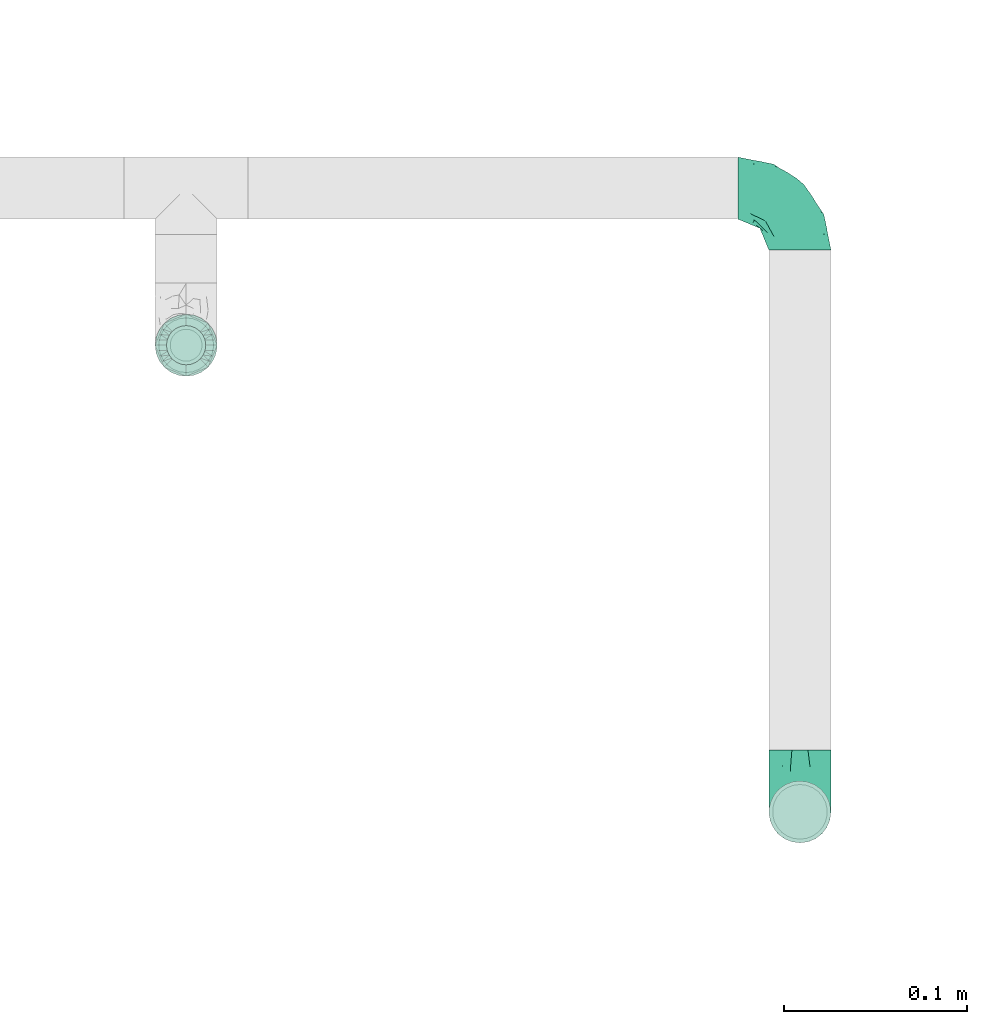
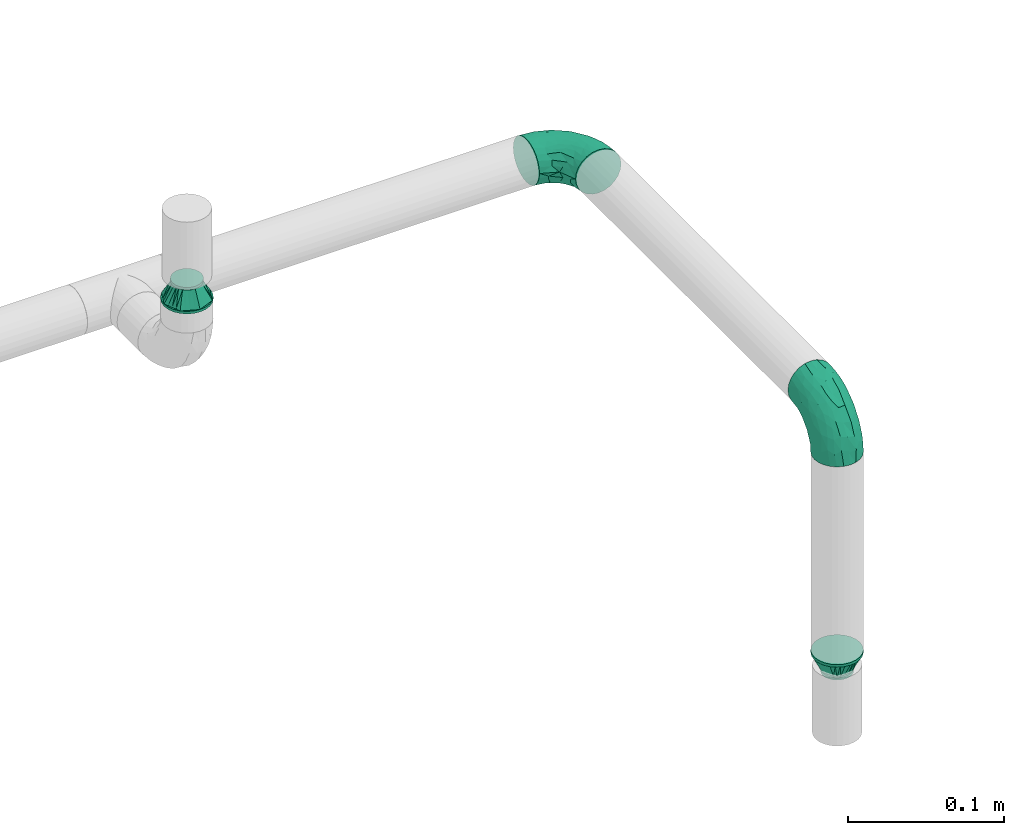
# One storey, part 65 of 95: 4 flow fittings.
"""IFC2X3 building model written with IfcOpenShell, lengths in millimetres."""

from ifc_helpers import new_model, entity, si_unit, converted_unit, derived_unit, direction, frame, origin_with_axes, place, context, subcontext, project, spatial, open_shell, surface_model, source, transform, mapped, type_object, element, save


model = new_model("IFC2X3")

# Units and contexts
model_context = context("Model", 3, precision=0.01, world=frame((0.0, 4.29681676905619e-09, 0.0)), true_north=direction((4.01073788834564e-13, 1.0)))
plan_context = context("Plan", 3, precision=0.01, world=frame((0.0, 4.29681676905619e-09, 0.0)), true_north=direction((4.01073788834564e-13, 1.0)))
body_context = subcontext(model_context, "Body", "Model", "MODEL_VIEW")
ifc_project = project(units=[converted_unit("PLANEANGLEUNIT", "DEGREE", entity("IfcPositiveLengthMeasure", 0.0174532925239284), si_unit("PLANEANGLEUNIT", "RADIAN"), dimensions=[0, 0, 0, 0, 0, 0, 0]), si_unit("AREAUNIT", "SQUARE_METRE"), si_unit("LENGTHUNIT", "METRE", prefix="MILLI"), si_unit("MASSUNIT", "GRAM", prefix="KILO"), si_unit("POWERUNIT", "WATT"), si_unit("PRESSUREUNIT", "PASCAL"), si_unit("FORCEUNIT", "NEWTON", prefix="KILO"), si_unit("ELECTRICVOLTAGEUNIT", "VOLT"), si_unit("ELECTRICCURRENTUNIT", "AMPERE"), si_unit("THERMODYNAMICTEMPERATUREUNIT", "DEGREE_CELSIUS"), si_unit("TIMEUNIT", "SECOND"), si_unit("VOLUMEUNIT", "CUBIC_METRE"), derived_unit("LINEARVELOCITYUNIT", [(si_unit("LENGTHUNIT", "METRE"), 1), (si_unit("TIMEUNIT", "SECOND"), -1)]), derived_unit("VOLUMETRICFLOWRATEUNIT", [(si_unit("VOLUMEUNIT", "CUBIC_METRE"), 1), (si_unit("TIMEUNIT", "SECOND"), -1)]), derived_unit("THERMALTRANSMITTANCEUNIT", [(si_unit("POWERUNIT", "WATT"), 1), (si_unit("THERMODYNAMICTEMPERATUREUNIT", "KELVIN"), -1), (si_unit("AREAUNIT", "SQUARE_METRE"), -1)]), derived_unit("SOUNDPRESSUREUNIT", [(si_unit("PRESSUREUNIT", "PASCAL"), 1)])], contexts=[model_context, plan_context])

# Site, building, storey
site_placement = place(None, frame((0.0, -4.29681676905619e-09, 0.0), z_axis=(0.0, 0.0, 1.0), x_axis=(1.0, 0.0, 0.0)))
site = spatial("IfcSite", under=ifc_project, at=site_placement, CompositionType="ELEMENT")
building_placement = place(site_placement, frame((0.0, 4.29681676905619e-09, 0.0), z_axis=(0.0, 0.0, 1.0), x_axis=(1.0, 0.0, 0.0)))
building = spatial("IfcBuilding", under=site, at=building_placement, Name="mc-building", CompositionType="ELEMENT")
storey_placement = place(building_placement, frame((0.0, 0.0, 210900.0), z_axis=(0.0, 0.0, 1.0), x_axis=(1.0, 0.0, 0.0)))
storey = spatial("IfcBuildingStorey", under=building, at=storey_placement, Name="Nivå F", CompositionType="ELEMENT", Elevation=210900.0)

# Flow fittings
pipe_fitting_type_1 = type_object("IfcPipeFittingType", Name="magi_pipe_fe_reducer_centric_short_NOR", PredefinedType="TRANSITION")
shared_shape_1 = source(origin_with_axes(), body_context, "Body", "SurfaceModel", [
    surface_model("IfcShellBasedSurfaceModel", [(14.4, 5.35, -9.26647), (14.4, 0.0, -10.7), (14.4, 2.76936, -10.33541), (14.4, 10.33541, -2.76936), (14.4, 7.56604, -7.56604), (14.4, -10.33541, -2.76936), (14.4, 9.26647, -5.35), (14.4, 0.0, 10.7), (14.4, -5.35, -9.26647), (14.4, -2.76936, -10.33541), (14.4, -7.56604, -7.56604), (14.4, -9.26647, -5.35), (14.4, 10.7, 0.0), (14.4, 10.33541, 2.76936), (14.4, 9.26647, 5.35), (14.4, 7.56604, 7.56604), (14.4, 2.76936, 10.33541), (14.4, 5.35, 9.26647), (14.4, -10.33541, 2.76936), (14.4, -7.56604, 7.56604), (14.4, -9.26647, 5.35), (14.4, -10.7, 0.0), (14.4, -2.76936, 10.33541), (14.4, -5.35, 9.26647), (12.4, 2.76936, 10.33541), (12.4, -10.33541, -2.76936), (12.4, 0.0, 10.7), (12.4, 5.35, 9.26647), (12.4, 7.56604, 7.56604), (12.4, 9.26647, 5.35), (12.4, 10.33541, 2.76936), (12.4, -10.33541, 2.76936), (12.4, -2.76936, 10.33541), (12.4, -7.56604, 7.56604), (12.4, -5.35, 9.26647), (12.4, -9.26647, 5.35), (12.4, -10.7, 0.0), (12.4, 10.33541, -2.76936), (12.4, 5.35, -9.26647), (12.4, 9.26647, -5.35), (12.4, 7.56604, -7.56604), (12.4, 2.76936, -10.33541), (12.4, -9.26647, -5.35), (12.4, -5.35, -9.26647), (12.4, -7.56604, -7.56604), (12.4, 0.0, -10.7), (12.4, -2.76936, -10.33541), (12.4, 10.7, 0.0), (-2.0, 11.9501, 11.9501), (-2.0, 0.0, 16.9), (-2.0, 4.37404, 16.32415), (-2.0, 8.45, 14.63583), (-2.0, 14.63583, 8.45), (-2.0, 16.32415, 4.37404), (-2.0, -16.32415, 4.37404), (-2.0, -8.45, 14.63583), (-2.0, -14.63583, 8.45), (-2.0, -11.9501, 11.9501), (-2.0, -4.37404, 16.32415), (-2.0, -16.32415, -4.37404), (-2.0, -16.9, 0.0), (-2.0, -8.45, -14.63583), (-2.0, 16.32415, -4.37404), (-2.0, 11.9501, -11.9501), (-2.0, 14.63583, -8.45), (-2.0, 8.45, -14.63583), (-2.0, 4.37404, -16.32415), (-2.0, 0.0, -16.9), (-2.0, -11.9501, -11.9501), (-2.0, -14.63583, -8.45), (-2.0, -4.37404, -16.32415), (-2.0, 16.9, 0.0), (0.0, 4.37404, -16.32415), (0.0, 8.45, -14.63583), (0.0, 11.9501, -11.9501), (0.0, 0.0, -16.9), (0.0, 16.32415, -4.37404), (0.0, 16.32415, 4.37404), (0.0, 14.63583, -8.45), (0.0, -8.45, -14.63583), (0.0, -4.37404, -16.32415), (0.0, -11.9501, -11.9501), (0.0, -16.32415, -4.37404), (0.0, -14.63583, -8.45), (0.0, -16.32415, 4.37404), (0.0, 16.9, 0.0), (0.0, 14.63583, 8.45), (0.0, 11.9501, 11.9501), (0.0, 4.37404, 16.32415), (0.0, 8.45, 14.63583), (0.0, 0.0, 16.9), (0.0, -14.63583, 8.45), (0.0, -16.9, 0.0), (0.0, -8.45, 14.63583), (0.0, -11.9501, 11.9501), (0.0, -4.37404, 16.32415), (12.4, 9.3625, -2.31662), (0.0, 14.42505, -5.97505), (0.0, 15.66253, -2.98753), (12.4, -6.6875, -6.94985), (0.0, -13.18758, -8.96258), (0.0, 2.98753, -15.66253), (12.4, 0.0, -9.26647), (12.4, 6.6875, -6.94985), (0.0, 8.96258, -13.18758), (12.4, -9.3625, -2.31662), (0.0, -15.66253, -2.98753), (0.0, -14.42505, -5.97505), (0.0, 5.97505, -14.42505), (0.0, -2.98753, -15.66253), (0.0, -8.96258, -13.18758), (0.0, 13.18758, -8.96258), (12.4, 8.025, -4.63324), (12.4, -2.675, -9.26647), (12.4, 2.675, -9.26647), (0.0, -5.97505, -14.42505), (12.4, -8.025, -4.63324), (12.4, -9.3625, 2.31662), (0.0, -14.42505, 5.97505), (0.0, -15.66253, 2.98753), (12.4, 6.6875, 6.94985), (0.0, 13.18758, 8.96258), (0.0, -2.98753, 15.66253), (12.4, 0.0, 9.26647), (12.4, -6.6875, 6.94985), (0.0, -8.96258, 13.18758), (12.4, 9.3625, 2.31662), (0.0, 15.66253, 2.98753), (0.0, 14.42505, 5.97505), (0.0, -5.97505, 14.42505), (0.0, 2.98753, 15.66253), (0.0, 8.96258, 13.18758), (0.0, -13.18758, 8.96258), (12.4, -8.025, 4.63324), (12.4, 2.675, 9.26647), (12.4, -2.675, 9.26647), (0.0, 5.97505, 14.42505), (12.4, 8.025, 4.63324)], [open_shell([[[0, 1, 2]], [[3, 0, 4]], [[5, 0, 3]], [[3, 4, 6]], [[7, 5, 3]], [[1, 8, 9]], [[1, 0, 8]], [[10, 5, 11]], [[5, 10, 8]], [[0, 5, 8]], [[3, 12, 13]], [[13, 14, 15]], [[13, 15, 16]], [[7, 3, 16]], [[16, 15, 17]], [[7, 18, 5]], [[18, 19, 20]], [[21, 5, 18]], [[19, 22, 23]], [[22, 19, 18]], [[7, 22, 18]], [[13, 16, 3]], [[24, 25, 26]], [[27, 25, 24]], [[28, 29, 30]], [[28, 25, 27]], [[31, 26, 25]], [[32, 33, 34]], [[33, 32, 31]], [[33, 31, 35]], [[32, 26, 31]], [[31, 25, 36]], [[30, 37, 28]], [[25, 28, 37]], [[38, 37, 39]], [[37, 38, 25]], [[38, 39, 40]], [[41, 25, 38]], [[42, 43, 44]], [[43, 42, 25]], [[43, 45, 46]], [[43, 25, 41]], [[41, 45, 43]], [[37, 30, 47]], [[25, 5, 36]], [[42, 11, 25]], [[8, 44, 43]], [[42, 44, 10]], [[9, 43, 46]], [[25, 11, 5]], [[5, 21, 36]], [[9, 8, 43]], [[10, 44, 8]], [[10, 11, 42]], [[1, 9, 46]], [[46, 45, 1]], [[41, 2, 45]], [[38, 0, 41]], [[6, 40, 39]], [[38, 40, 4]], [[3, 39, 37]], [[38, 4, 0]], [[0, 2, 41]], [[12, 3, 37]], [[6, 39, 3]], [[6, 4, 40]], [[47, 12, 37]], [[45, 2, 1]], [[30, 13, 47]], [[29, 14, 30]], [[17, 28, 27]], [[29, 28, 15]], [[16, 27, 24]], [[30, 14, 13]], [[13, 12, 47]], [[16, 17, 27]], [[15, 28, 17]], [[15, 14, 29]], [[7, 16, 24]], [[24, 26, 7]], [[32, 22, 26]], [[34, 23, 32]], [[20, 33, 35]], [[34, 33, 19]], [[18, 35, 31]], [[34, 19, 23]], [[23, 22, 32]], [[21, 18, 31]], [[20, 35, 18]], [[20, 19, 33]], [[36, 21, 31]], [[26, 22, 7]], [[48, 49, 50]], [[48, 50, 51]], [[48, 52, 53]], [[48, 53, 49]], [[49, 53, 54]], [[55, 56, 57]], [[55, 58, 49]], [[56, 55, 49]], [[49, 54, 56]], [[54, 59, 60]], [[54, 53, 61]], [[53, 62, 63]], [[63, 62, 64]], [[63, 65, 66]], [[61, 53, 63]], [[67, 63, 66]], [[59, 68, 69]], [[68, 59, 61]], [[61, 67, 70]], [[59, 54, 61]], [[63, 67, 61]], [[53, 71, 62]], [[72, 73, 74]], [[75, 72, 74]], [[74, 76, 77]], [[76, 74, 78]], [[74, 77, 79]], [[75, 79, 80]], [[75, 74, 79]], [[81, 82, 83]], [[82, 81, 79]], [[79, 84, 82]], [[77, 76, 85]], [[77, 86, 87]], [[77, 87, 88]], [[88, 84, 79]], [[88, 87, 89]], [[84, 88, 90]], [[90, 91, 84]], [[92, 82, 84]], [[91, 93, 94]], [[91, 90, 93]], [[93, 90, 95]], [[79, 77, 88]], [[59, 82, 60]], [[69, 83, 59]], [[79, 68, 61]], [[69, 68, 81]], [[80, 61, 70]], [[59, 83, 82]], [[82, 92, 60]], [[80, 79, 61]], [[81, 68, 79]], [[81, 83, 69]], [[75, 80, 70]], [[70, 67, 75]], [[66, 72, 67]], [[65, 73, 66]], [[78, 63, 64]], [[65, 63, 74]], [[76, 64, 62]], [[65, 74, 73]], [[73, 72, 66]], [[85, 76, 62]], [[78, 64, 76]], [[78, 74, 63]], [[71, 85, 62]], [[67, 72, 75]], [[53, 77, 71]], [[52, 86, 53]], [[89, 48, 51]], [[52, 48, 87]], [[88, 51, 50]], [[53, 86, 77]], [[77, 85, 71]], [[88, 89, 51]], [[87, 48, 89]], [[87, 86, 52]], [[90, 88, 50]], [[50, 49, 90]], [[58, 95, 49]], [[55, 93, 58]], [[91, 57, 56]], [[55, 57, 94]], [[84, 56, 54]], [[55, 94, 93]], [[93, 95, 58]], [[92, 84, 54]], [[91, 56, 84]], [[91, 94, 57]], [[60, 92, 54]], [[49, 95, 90]], [[27, 34, 47]], [[47, 34, 43]], [[43, 38, 47]], [[43, 34, 36]], [[90, 87, 94]], [[92, 94, 87]], [[87, 74, 92]], [[75, 92, 74]], [[81, 92, 75]], [[74, 87, 85]], [[96, 97, 98]], [[81, 99, 100]], [[101, 102, 75]], [[98, 85, 47]], [[74, 103, 104]], [[104, 103, 38]], [[105, 106, 107]], [[38, 108, 104]], [[102, 109, 75]], [[110, 99, 81]], [[47, 96, 98]], [[103, 111, 112]], [[109, 102, 113]], [[36, 92, 106]], [[102, 101, 114]], [[110, 115, 43]], [[96, 112, 97]], [[107, 116, 105]], [[36, 106, 105]], [[113, 115, 109]], [[43, 115, 113]], [[116, 107, 100]], [[108, 38, 114]], [[111, 103, 74]], [[111, 97, 112]], [[99, 110, 43]], [[116, 100, 99]], [[101, 108, 114]], [[117, 118, 119]], [[87, 120, 121]], [[122, 123, 90]], [[119, 92, 36]], [[94, 124, 125]], [[125, 124, 34]], [[126, 127, 128]], [[34, 129, 125]], [[123, 130, 90]], [[131, 120, 87]], [[36, 117, 119]], [[124, 132, 133]], [[130, 123, 134]], [[47, 85, 127]], [[123, 122, 135]], [[131, 136, 27]], [[117, 133, 118]], [[128, 137, 126]], [[47, 127, 126]], [[134, 136, 130]], [[27, 136, 134]], [[137, 128, 121]], [[129, 34, 135]], [[132, 124, 94]], [[132, 118, 133]], [[120, 131, 27]], [[137, 121, 120]], [[122, 129, 135]]])]),
])
flow_fitting_1_placement = place(storey_placement, frame((521865.41856, 454674.42495, 2650.78069000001), z_axis=(-1.0, 0.0, 0.0), x_axis=(0.0, 0.0, 1.0)))
element("IfcFlowFitting", 1, at=flow_fitting_1_placement, inside=storey, type_object=pipe_fitting_type_1, Name="magi_pipe_fe_reducer_centric_short_NOR", context=body_context, shape_type="MappedRepresentation", body=[
    mapped(shared_shape_1, transform((0.0, 0.0, 0.0), scale=1.0)),
])
pipe_fitting_type_2 = type_object("IfcPipeFittingType", Name="magi_pipe_fe_elbow_short_001", PredefinedType="BEND")
shared_shape_2 = source(origin_with_axes(), body_context, "Body", "SurfaceModel", [
    surface_model("IfcShellBasedSurfaceModel", [(-33.8, 8.45, -14.63583), (-33.8, 4.37404, -16.32415), (-33.8, 11.9501, -11.9501), (-33.8, -11.9501, -11.9501), (-33.8, -14.63583, -8.45), (-33.8, -8.45, -14.63583), (-33.8, 0.0, -16.9), (-33.8, -4.37404, -16.32415), (-33.8, -4.37404, 16.32415), (-33.8, 0.0, 16.9), (-33.8, -8.45, 14.63583), (-33.8, 16.32415, -4.37404), (-33.8, 14.63583, -8.45), (-33.8, -16.32415, -4.37404), (-33.8, -16.9, 0.0), (-33.8, -16.32415, 4.37404), (-33.8, 11.9501, 11.9501), (-33.8, 14.63583, 8.45), (-33.8, 16.32415, 4.37404), (-33.8, 4.37404, 16.32415), (-33.8, 8.45, 14.63583), (-33.8, -14.63583, 8.45), (-33.8, -11.9501, 11.9501), (-33.8, 16.9, 0.0), (-11.9501, 33.8, -11.9501), (0.0, 33.8, -16.9), (-4.37404, 33.8, -16.32415), (-8.45, 33.8, -14.63583), (-14.63583, 33.8, -8.45), (-16.32415, 33.8, -4.37404), (14.63583, 33.8, -8.45), (8.45, 33.8, 14.63583), (16.32415, 33.8, -4.37404), (8.45, 33.8, -14.63583), (11.9501, 33.8, -11.9501), (4.37404, 33.8, -16.32415), (16.32415, 33.8, 4.37404), (16.9, 33.8, 0.0), (-11.9501, 33.8, 11.9501), (-16.32415, 33.8, 4.37404), (-14.63583, 33.8, 8.45), (-8.45, 33.8, 14.63583), (-4.37404, 33.8, 16.32415), (11.9501, 33.8, 11.9501), (14.63583, 33.8, 8.45), (0.0, 33.8, 16.9), (4.37404, 33.8, 16.32415), (-16.9, 33.8, 0.0), (-24.79389, -13.12945, 9.48721), (-22.19287, -9.75018, 12.59315), (-24.09897, -14.97035, 0.0), (-14.93934, -10.76256, 8.5297), (-22.46095, -14.75051, 5.27077), (14.75051, 22.46094, 5.27077), (11.9251, 13.23888, 4.33236), (13.04069, 14.39795, 0.0), (7.71387, 13.68847, 11.55891), (9.75018, 22.19287, 12.59315), (4.10169, 13.0571, 14.04018), (-24.84007, -6.39063, 15.2048), (-25.81779, -2.23879, 16.61097), (-23.66549, 2.59054, 16.87119), (-26.50418, 14.06512, 11.08152), (-24.21253, 17.66365, 7.72657), (-29.58514, 15.86957, 7.00283), (-6.17382, -7.5455, 0.0), (-13.23888, -11.9251, 4.33236), (-14.39795, -13.04069, 0.0), (-17.81434, 18.87373, 11.97104), (-6.30846, 29.15138, 15.82987), (-2.31622, 25.28002, 16.85849), (-29.23923, 10.23435, 13.77053), (-1.45439, -2.85688, 7.61475), (-0.28326, 0.34872, 10.09509), (-5.74484, -4.04709, 10.4122), (-4.41137, 11.31918, 16.59407), (-8.39727, 3.10034, 15.7812), (-1.72649, 9.1306, 15.53089), (-17.39909, 24.75344, 7.64977), (-26.19233, 20.0512, 0.0), (-28.14518, 17.29657, 4.25857), (-26.05147, 6.6281, 15.96447), (-5.87354, 16.61944, 16.86968), (-12.51807, 12.51807, 16.48937), (-10.06312, 7.38516, 16.81295), (-3.01882, 3.01882, 13.81718), (-13.0571, -4.10169, 14.04018), (-16.82553, -0.15166, 16.38038), (10.76256, 14.93934, 8.5297), (13.12945, 24.79389, 9.48721), (6.39063, 24.84007, 15.2048), (2.23879, 25.81779, 16.61097), (-13.68847, -7.71387, 11.55891), (14.97035, 24.09897, 0.0), (-7.30894, 22.89991, 16.09489), (-10.67958, 26.17414, 14.008), (-12.78295, 18.26924, 15.06066), (-13.88562, 22.45231, 12.93244), (-18.04944, 15.16501, 14.04434), (-23.11658, 20.08178, 4.02986), (-21.84989, 21.84989, 0.0), (-18.55817, 25.48277, 3.93065), (-13.95142, 26.94732, 11.03289), (-18.57098, 7.23906, 16.59756), (-16.58335, 4.14122, 16.89279), (-17.96666, 11.46709, 15.63151), (-9.84453, 17.54304, 16.18938), (0.15166, 16.82553, 16.38038), (-23.27207, 11.47201, 14.23154), (3.84842, 5.86994, 10.70473), (-8.0212, -7.54413, 7.93275), (1.00345, -2.19508, 4.57414), (5.13203, 3.01004, 5.90201), (5.24161, 1.7543, 2.53265), (8.70457, 7.04947, 3.99182), (-20.0512, 26.19233, 0.0), (8.4852, 8.76699, 7.09296), (-4.55488, -6.72064, 4.90681), (2.05031, -2.05031, 0.0), (7.5455, 6.17382, 0.0), (-26.75399, 2.1369, -16.845), (-14.61995, 24.73803, -11.27736), (-28.45274, -13.45335, -9.81895), (-26.00469, 6.63555, -15.96645), (-23.06726, 20.04573, -4.26202), (-13.80647, -4.26506, -14.17873), (-14.67501, -0.21081, -16.07388), (-6.7902, -0.2828, -13.8478), (-24.53586, 11.08096, -14.13417), (-26.72048, 14.00837, -11.05776), (10.0967, 24.44989, -12.75976), (5.83237, 21.40218, -15.03047), (6.66249, 28.54238, -15.38093), (-20.38182, 15.48705, -12.74596), (12.53268, 21.23441, -9.15363), (12.54494, 15.67504, -5.54878), (9.7522, 12.89279, -8.66343), (-15.65186, 19.64213, -13.01327), (-12.03528, 20.66498, -14.67665), (-15.61907, 15.61906, -14.83879), (-25.56551, -15.26206, 0.0), (-24.65452, -15.12934, -5.50955), (13.45335, 28.45274, -9.81895), (15.12934, 24.65452, -5.50955), (-7.35442, -8.31014, -5.65563), (-15.67504, -12.54494, -5.54878), (-24.44989, -10.0967, -12.75976), (0.16522, 0.41303, -9.71728), (-5.70658, -5.33066, -8.89288), (-5.13869, -2.37198, -11.53565), (-21.23441, -12.53268, -9.15363), (0.71146, 7.93863, -14.09382), (0.21081, 14.67501, -16.07388), (3.49291, 14.42772, -14.76381), (-24.89911, -2.13088, -16.591), (-28.54238, -6.66249, -15.38093), (-18.44386, -7.71663, -13.26957), (2.13088, 24.89911, -16.591), (-28.64342, 17.44413, -2.89318), (1.70017, -1.28722, -5.09504), (-16.57067, 26.81947, -7.36596), (-17.69055, 27.4263, -3.76405), (-12.89279, -9.7522, -8.66343), (-5.96611, 5.96611, -15.95814), (-20.53709, 20.09345, -8.28985), (-2.1369, 26.75399, -16.845), (-6.89872, 24.58781, -16.02578), (-10.60739, 26.53157, -13.98044), (-21.40218, -5.83237, -15.03047), (2.93192, 5.89627, -11.55917), (6.89393, 12.61842, -11.82233), (5.58056, 5.95325, -8.79455), (-3.99512, 18.61798, -16.89635), (8.31014, 7.35442, -5.65563), (-9.1383, 9.86148, -16.89041), (-9.99983, 16.02119, -16.39699), (-16.68576, 9.78031, -16.34199), (-27.01915, 16.61158, -7.12979), (15.26206, 25.56551, 0.0), (-18.61798, 3.99512, -16.89635), (-19.37495, 27.82495, 0.0), (-12.61842, -6.89393, -11.82233), (-18.84705, 19.14018, -10.96545)], [open_shell([[[0, 1, 2]], [[3, 4, 5]], [[6, 7, 5]], [[8, 9, 10]], [[1, 6, 2]], [[11, 12, 2]], [[4, 2, 6]], [[2, 13, 10]], [[5, 4, 6]], [[2, 4, 13]], [[14, 15, 13]], [[11, 2, 16]], [[11, 17, 18]], [[11, 16, 17]], [[19, 20, 16]], [[16, 2, 10]], [[19, 16, 10]], [[21, 22, 15]], [[22, 13, 15]], [[22, 10, 13]], [[10, 9, 19]], [[11, 18, 23]], [[24, 25, 26]], [[24, 26, 27]], [[24, 28, 29]], [[25, 24, 30]], [[31, 32, 24]], [[33, 30, 34]], [[33, 35, 25]], [[25, 30, 33]], [[32, 30, 24]], [[32, 36, 37]], [[38, 24, 29]], [[39, 40, 29]], [[40, 38, 29]], [[38, 41, 42]], [[38, 31, 24]], [[31, 38, 42]], [[36, 43, 44]], [[36, 32, 43]], [[31, 45, 46]], [[32, 31, 43]], [[42, 45, 31]], [[39, 29, 47]], [[22, 48, 49]], [[15, 14, 50]], [[51, 48, 52]], [[53, 54, 55]], [[48, 22, 21]], [[15, 52, 21]], [[56, 57, 58]], [[49, 10, 22]], [[49, 59, 10]], [[9, 60, 61]], [[62, 63, 64]], [[65, 66, 67]], [[57, 43, 31]], [[62, 68, 63]], [[42, 69, 70]], [[20, 71, 16]], [[8, 60, 9]], [[72, 73, 74]], [[75, 76, 77]], [[16, 62, 17]], [[40, 39, 78]], [[79, 23, 80]], [[64, 18, 17]], [[9, 61, 19]], [[19, 81, 20]], [[82, 83, 84]], [[74, 85, 86]], [[59, 86, 87]], [[88, 89, 57]], [[90, 31, 46]], [[44, 53, 36]], [[46, 45, 91]], [[54, 53, 88]], [[44, 89, 53]], [[92, 86, 49]], [[89, 44, 43]], [[10, 59, 8]], [[53, 55, 93]], [[93, 36, 53]], [[66, 52, 67]], [[94, 82, 70]], [[95, 96, 94]], [[97, 98, 96]], [[79, 99, 100]], [[41, 38, 95]], [[101, 100, 99]], [[68, 78, 63]], [[42, 41, 69]], [[23, 18, 80]], [[95, 94, 69]], [[78, 101, 99]], [[38, 102, 95]], [[70, 45, 42]], [[97, 95, 102]], [[15, 50, 52]], [[90, 57, 31]], [[57, 90, 58]], [[81, 19, 61]], [[103, 104, 84]], [[105, 81, 103]], [[38, 40, 102]], [[106, 96, 83]], [[94, 106, 82]], [[91, 70, 107]], [[71, 62, 16]], [[62, 108, 98]], [[86, 59, 49]], [[67, 52, 50]], [[60, 59, 87]], [[92, 49, 51]], [[86, 85, 76]], [[91, 90, 46]], [[37, 36, 93]], [[107, 77, 58]], [[107, 58, 90]], [[58, 85, 109]], [[110, 74, 92]], [[72, 74, 110]], [[66, 51, 52]], [[72, 111, 112]], [[113, 114, 112]], [[56, 88, 57]], [[52, 48, 21]], [[49, 48, 51]], [[57, 89, 43]], [[53, 89, 88]], [[103, 81, 61]], [[71, 81, 108]], [[18, 64, 80]], [[63, 78, 99]], [[47, 115, 101]], [[101, 115, 100]], [[40, 78, 102]], [[68, 102, 78]], [[97, 96, 95]], [[105, 98, 108]], [[103, 84, 83]], [[107, 70, 82]], [[76, 84, 87]], [[82, 84, 75]], [[70, 91, 45]], [[90, 91, 107]], [[59, 60, 8]], [[61, 60, 87]], [[73, 85, 74]], [[109, 112, 116]], [[103, 61, 104]], [[105, 103, 83]], [[96, 105, 83]], [[81, 105, 108]], [[96, 98, 105]], [[62, 98, 68]], [[61, 87, 104]], [[87, 84, 104]], [[86, 76, 87]], [[77, 76, 85]], [[58, 77, 85]], [[75, 77, 107]], [[82, 75, 107]], [[76, 75, 84]], [[81, 71, 20]], [[62, 71, 108]], [[95, 69, 41]], [[70, 69, 94]], [[62, 64, 17]], [[80, 63, 99]], [[63, 80, 64]], [[80, 99, 79]], [[66, 65, 117]], [[110, 66, 117]], [[112, 114, 116]], [[118, 117, 65]], [[110, 92, 51]], [[112, 111, 113]], [[119, 55, 54]], [[74, 86, 92]], [[58, 109, 56]], [[116, 56, 109]], [[66, 110, 51]], [[72, 110, 117]], [[111, 72, 117]], [[73, 112, 109]], [[117, 118, 111]], [[113, 111, 118]], [[118, 119, 113]], [[114, 119, 54]], [[119, 114, 113]], [[116, 54, 88]], [[54, 116, 114]], [[116, 88, 56]], [[112, 73, 72]], [[85, 73, 109]], [[78, 39, 101]], [[47, 101, 39]], [[102, 68, 97]], [[97, 68, 98]], [[82, 106, 83]], [[94, 96, 106]], [[1, 120, 6]], [[28, 24, 121]], [[3, 122, 4]], [[0, 123, 1]], [[100, 124, 79]], [[125, 126, 127]], [[128, 2, 129]], [[130, 131, 132]], [[128, 129, 133]], [[134, 135, 136]], [[137, 138, 139]], [[128, 0, 2]], [[67, 140, 141]], [[134, 142, 143]], [[141, 13, 4]], [[144, 65, 145]], [[146, 3, 5]], [[147, 148, 149]], [[145, 141, 150]], [[151, 152, 153]], [[154, 7, 6]], [[5, 155, 146]], [[150, 146, 156]], [[155, 5, 7]], [[143, 135, 134]], [[35, 157, 25]], [[23, 79, 158]], [[148, 159, 144]], [[160, 161, 29]], [[145, 162, 144]], [[163, 152, 151]], [[29, 28, 160]], [[121, 164, 160]], [[33, 34, 130]], [[25, 165, 26]], [[26, 165, 166]], [[142, 34, 30]], [[24, 27, 167]], [[124, 161, 164]], [[157, 35, 132]], [[155, 154, 168]], [[123, 0, 128]], [[169, 170, 171]], [[172, 157, 152]], [[26, 166, 27]], [[132, 35, 33]], [[142, 130, 34]], [[168, 154, 126]], [[136, 135, 173]], [[133, 137, 139]], [[2, 12, 129]], [[170, 131, 130]], [[30, 32, 143]], [[172, 174, 175]], [[176, 123, 128]], [[158, 177, 11]], [[135, 55, 119]], [[167, 27, 166]], [[175, 166, 172]], [[137, 167, 138]], [[122, 141, 4]], [[140, 14, 13]], [[32, 37, 178]], [[170, 130, 134]], [[152, 157, 131]], [[165, 157, 172]], [[153, 170, 151]], [[152, 163, 174]], [[168, 125, 156]], [[122, 146, 150]], [[120, 154, 6]], [[179, 174, 126]], [[179, 126, 154]], [[126, 163, 127]], [[162, 145, 150]], [[140, 13, 141]], [[32, 178, 143]], [[55, 143, 178]], [[177, 129, 12]], [[128, 133, 139]], [[176, 128, 139]], [[120, 123, 179]], [[121, 160, 28]], [[161, 100, 180]], [[166, 175, 138]], [[121, 24, 167]], [[161, 47, 29]], [[79, 124, 158]], [[124, 164, 177]], [[161, 124, 100]], [[136, 171, 170]], [[127, 163, 151]], [[147, 171, 159]], [[148, 144, 162]], [[127, 151, 169]], [[127, 181, 125]], [[129, 177, 164]], [[12, 11, 177]], [[159, 65, 144]], [[67, 141, 145]], [[143, 55, 135]], [[135, 119, 173]], [[123, 120, 1]], [[154, 120, 179]], [[157, 165, 25]], [[166, 165, 172]], [[172, 152, 174]], [[176, 139, 175]], [[126, 174, 163]], [[176, 174, 179]], [[174, 176, 175]], [[123, 176, 179]], [[150, 181, 162]], [[127, 149, 181]], [[181, 148, 162]], [[159, 148, 147]], [[171, 136, 173]], [[170, 134, 136]], [[159, 171, 173]], [[171, 147, 169]], [[169, 147, 149]], [[151, 170, 169]], [[164, 182, 129]], [[182, 121, 137]], [[181, 149, 148]], [[169, 149, 127]], [[182, 137, 133]], [[167, 137, 121]], [[166, 138, 167]], [[175, 139, 138]], [[129, 182, 133]], [[121, 182, 164]], [[161, 160, 164]], [[47, 161, 180]], [[177, 158, 124]], [[23, 158, 11]], [[130, 132, 33]], [[157, 132, 131]], [[143, 142, 30]], [[130, 142, 134]], [[154, 155, 7]], [[146, 155, 168]], [[146, 122, 3]], [[141, 122, 150]], [[152, 131, 153]], [[159, 119, 118]], [[67, 145, 65]], [[170, 153, 131]], [[119, 159, 173]], [[159, 118, 65]], [[156, 125, 181]], [[126, 125, 168]], [[150, 156, 181]], [[168, 156, 146]]])]),
])
for number, where, z_axis, x_axis, name in (
    (2, (522200.0, 454420.05824, 2600.0), (-1.0, 0.0, 0.0), (0.0, 0.0, 1.0), "magi_pipe_fe_elbow_short_001"),
    (3, (522200.0, 454760.05824, 2600.0), (0.0, 0.0, 1.0), (0.0, 1.0, 0.0), "magi_pipe_fe_elbow_short_001"),
):
    element("IfcFlowFitting", number, at=place(storey_placement, frame(where, z_axis=z_axis, x_axis=x_axis)), inside=storey, type_object=pipe_fitting_type_2, Name=name, context=body_context, shape_type="MappedRepresentation", body=[
        mapped(shared_shape_2, transform((0.0, 0.0, 0.0), scale=1.0)),
    ])
shared_shape_3 = source(origin_with_axes(), body_context, "Body", "SurfaceModel", [
    surface_model("IfcShellBasedSurfaceModel", [(14.4, -11.9501, -11.9501), (14.4, -8.45, -14.63583), (14.4, -4.37404, -16.32415), (14.4, 8.45, -14.63583), (14.4, 16.9, 0.0), (14.4, -14.63583, -8.45), (14.4, -16.32415, -4.37404), (14.4, -4.37404, 16.32415), (14.4, 4.37404, -16.32415), (14.4, 0.0, -16.9), (14.4, 14.63583, -8.45), (14.4, 16.32415, -4.37404), (14.4, 11.9501, -11.9501), (14.4, -16.32415, 4.37404), (14.4, -16.9, 0.0), (14.4, -11.9501, 11.9501), (14.4, -14.63583, 8.45), (14.4, -8.45, 14.63583), (14.4, 0.0, 16.9), (14.4, 16.32415, 4.37404), (14.4, 14.63583, 8.45), (14.4, 11.9501, 11.9501), (14.4, 8.45, 14.63583), (14.4, 4.37404, 16.32415), (12.4, 0.0, 16.9), (12.4, 14.63583, 8.45), (12.4, -4.37404, 16.32415), (12.4, -8.45, 14.63583), (12.4, -16.32415, 4.37404), (12.4, -14.63583, 8.45), (12.4, -11.9501, 11.9501), (12.4, 11.9501, 11.9501), (12.4, 8.45, 14.63583), (12.4, 4.37404, 16.32415), (12.4, 16.32415, 4.37404), (12.4, 16.9, 0.0), (12.4, 16.32415, -4.37404), (12.4, 8.45, -14.63583), (12.4, -11.9501, -11.9501), (12.4, -16.32415, -4.37404), (12.4, -14.63583, -8.45), (12.4, -4.37404, -16.32415), (12.4, -8.45, -14.63583), (12.4, 14.63583, -8.45), (12.4, 11.9501, -11.9501), (12.4, 4.37404, -16.32415), (12.4, 0.0, -16.9), (12.4, -16.9, 0.0), (-2.0, 0.0, 10.7), (-2.0, 10.33541, -2.76936), (-2.0, -2.76936, 10.33541), (-2.0, -5.35, 9.26647), (-2.0, -10.33541, 2.76936), (-2.0, -9.26647, 5.35), (-2.0, -7.56604, 7.56604), (-2.0, 10.33541, 2.76936), (-2.0, 5.35, 9.26647), (-2.0, 7.56604, 7.56604), (-2.0, 2.76936, 10.33541), (-2.0, 9.26647, 5.35), (-2.0, 10.7, 0.0), (-2.0, -10.33541, -2.76936), (-2.0, -9.26647, -5.35), (-2.0, -7.56604, -7.56604), (-2.0, -5.35, -9.26647), (-2.0, -2.76936, -10.33541), (-2.0, 9.26647, -5.35), (-2.0, 7.56604, -7.56604), (-2.0, 5.35, -9.26647), (-2.0, 2.76936, -10.33541), (-2.0, 0.0, -10.7), (-2.0, -10.7, 0.0), (0.0, -2.76936, -10.33541), (0.0, 0.0, -10.7), (0.0, -5.35, -9.26647), (0.0, -7.56604, -7.56604), (0.0, -10.33541, -2.76936), (0.0, 10.33541, -2.76936), (0.0, -9.26647, -5.35), (0.0, 0.0, 10.7), (0.0, 2.76936, -10.33541), (0.0, 5.35, -9.26647), (0.0, 9.26647, -5.35), (0.0, 7.56604, -7.56604), (0.0, -10.33541, 2.76936), (0.0, -10.7, 0.0), (0.0, -7.56604, 7.56604), (0.0, -9.26647, 5.35), (0.0, -2.76936, 10.33541), (0.0, -5.35, 9.26647), (0.0, 7.56604, 7.56604), (0.0, 9.26647, 5.35), (0.0, 10.33541, 2.76936), (0.0, 10.7, 0.0), (0.0, 5.35, 9.26647), (0.0, 2.76936, 10.33541), (12.4, -2.98753, -15.66253), (12.4, -5.97505, -14.42505), (0.0, -2.675, -9.26647), (12.4, 15.66253, -2.98753), (12.4, 14.42505, -5.97505), (0.0, 9.3625, -2.31662), (0.0, 2.675, -9.26647), (12.4, 5.97505, -14.42505), (12.4, 8.96258, -13.18758), (0.0, 6.6875, -6.94985), (12.4, -14.42505, -5.97505), (12.4, -15.66253, -2.98753), (0.0, -9.3625, -2.31662), (0.0, 8.025, -4.63324), (12.4, 13.18758, -8.96258), (12.4, 2.98753, -15.66253), (0.0, -6.6875, -6.94985), (12.4, -13.18758, -8.96258), (12.4, -8.96258, -13.18758), (0.0, 0.0, -9.26647), (0.0, -8.025, -4.63324), (12.4, 2.98753, 15.66253), (12.4, 5.97505, 14.42505), (0.0, 2.675, 9.26647), (12.4, -15.66253, 2.98753), (12.4, -14.42505, 5.97505), (0.0, -9.3625, 2.31662), (0.0, -2.675, 9.26647), (12.4, -5.97505, 14.42505), (12.4, -8.96258, 13.18758), (0.0, -6.6875, 6.94985), (12.4, 14.42505, 5.97505), (12.4, 15.66253, 2.98753), (0.0, 9.3625, 2.31662), (0.0, -8.025, 4.63324), (12.4, -13.18758, 8.96258), (12.4, -2.98753, 15.66253), (0.0, 6.6875, 6.94985), (12.4, 13.18758, 8.96258), (12.4, 8.96258, 13.18758), (0.0, 0.0, 9.26647), (0.0, 8.025, 4.63324)], [open_shell([[[0, 1, 2]], [[0, 2, 3]], [[3, 4, 0]], [[5, 0, 6]], [[0, 7, 6]], [[8, 3, 9]], [[3, 2, 9]], [[10, 11, 12]], [[3, 12, 11]], [[11, 4, 3]], [[13, 14, 6]], [[15, 16, 13]], [[7, 15, 13]], [[0, 4, 7]], [[17, 15, 7]], [[18, 7, 4]], [[19, 20, 18]], [[18, 4, 19]], [[21, 22, 20]], [[22, 18, 20]], [[23, 18, 22]], [[13, 6, 7]], [[24, 25, 26]], [[27, 26, 28]], [[28, 29, 30]], [[27, 28, 30]], [[28, 26, 25]], [[31, 25, 32]], [[24, 33, 32]], [[32, 25, 24]], [[28, 25, 34]], [[35, 36, 34]], [[37, 28, 34]], [[38, 39, 28]], [[40, 39, 38]], [[41, 42, 38]], [[38, 28, 37]], [[38, 37, 41]], [[43, 44, 36]], [[37, 36, 44]], [[45, 46, 37]], [[37, 34, 36]], [[37, 46, 41]], [[47, 28, 39]], [[35, 11, 36]], [[36, 10, 43]], [[37, 44, 3]], [[12, 44, 43]], [[45, 37, 8]], [[11, 10, 36]], [[35, 4, 11]], [[37, 3, 8]], [[3, 44, 12]], [[43, 10, 12]], [[45, 8, 9]], [[9, 46, 45]], [[46, 2, 41]], [[41, 1, 42]], [[40, 38, 5]], [[0, 38, 42]], [[39, 40, 6]], [[1, 0, 42]], [[41, 2, 1]], [[39, 6, 14]], [[6, 40, 5]], [[38, 0, 5]], [[39, 14, 47]], [[9, 2, 46]], [[47, 13, 28]], [[28, 16, 29]], [[27, 30, 17]], [[15, 30, 29]], [[26, 27, 7]], [[13, 16, 28]], [[47, 14, 13]], [[27, 17, 7]], [[17, 30, 15]], [[29, 16, 15]], [[26, 7, 18]], [[18, 24, 26]], [[24, 23, 33]], [[33, 22, 32]], [[25, 31, 20]], [[21, 31, 32]], [[34, 25, 19]], [[22, 21, 32]], [[33, 23, 22]], [[34, 19, 4]], [[19, 25, 20]], [[31, 21, 20]], [[34, 4, 35]], [[18, 23, 24]], [[48, 49, 50]], [[50, 49, 51]], [[52, 53, 54]], [[51, 52, 54]], [[49, 48, 55]], [[56, 57, 58]], [[57, 48, 58]], [[59, 55, 57]], [[57, 55, 48]], [[60, 49, 55]], [[49, 52, 51]], [[61, 52, 49]], [[62, 61, 63]], [[64, 61, 49]], [[63, 61, 64]], [[65, 64, 49]], [[66, 67, 49]], [[68, 49, 67]], [[69, 70, 68]], [[65, 49, 68]], [[68, 70, 65]], [[71, 52, 61]], [[72, 73, 74]], [[75, 74, 76]], [[76, 74, 77]], [[78, 75, 76]], [[76, 77, 79]], [[80, 81, 73]], [[81, 74, 73]], [[82, 77, 83]], [[81, 83, 77]], [[81, 77, 74]], [[84, 85, 76]], [[86, 87, 84]], [[88, 86, 84]], [[88, 76, 79]], [[89, 86, 88]], [[77, 90, 79]], [[91, 90, 92]], [[92, 77, 93]], [[94, 95, 90]], [[90, 77, 92]], [[79, 90, 95]], [[84, 76, 88]], [[60, 77, 49]], [[49, 82, 66]], [[68, 67, 81]], [[83, 67, 66]], [[69, 68, 80]], [[77, 82, 49]], [[60, 93, 77]], [[68, 81, 80]], [[81, 67, 83]], [[66, 82, 83]], [[69, 80, 73]], [[73, 70, 69]], [[70, 72, 65]], [[65, 74, 64]], [[62, 63, 78]], [[75, 63, 64]], [[61, 62, 76]], [[74, 75, 64]], [[65, 72, 74]], [[61, 76, 85]], [[76, 62, 78]], [[63, 75, 78]], [[61, 85, 71]], [[73, 72, 70]], [[71, 84, 52]], [[52, 87, 53]], [[51, 54, 89]], [[86, 54, 53]], [[50, 51, 88]], [[84, 87, 52]], [[71, 85, 84]], [[51, 89, 88]], [[89, 54, 86]], [[53, 87, 86]], [[50, 88, 79]], [[79, 48, 50]], [[48, 95, 58]], [[58, 94, 56]], [[59, 57, 91]], [[90, 57, 56]], [[55, 59, 92]], [[94, 90, 56]], [[58, 95, 94]], [[55, 92, 93]], [[92, 59, 91]], [[57, 90, 91]], [[55, 93, 60]], [[79, 95, 48]], [[31, 24, 44]], [[24, 30, 47]], [[44, 35, 31]], [[47, 46, 44]], [[46, 47, 38]], [[24, 47, 44]], [[89, 94, 93]], [[85, 89, 74]], [[81, 74, 93]], [[89, 93, 74]], [[96, 97, 98]], [[99, 100, 101]], [[102, 81, 103]], [[93, 35, 99]], [[104, 105, 44]], [[104, 81, 105]], [[106, 107, 108]], [[109, 110, 105]], [[103, 111, 102]], [[74, 98, 97]], [[112, 38, 113]], [[74, 114, 112]], [[107, 47, 85]], [[98, 115, 96]], [[102, 111, 115]], [[104, 103, 81]], [[113, 116, 112]], [[115, 111, 46]], [[99, 101, 93]], [[100, 109, 101]], [[108, 116, 106]], [[108, 107, 85]], [[44, 105, 110]], [[109, 100, 110]], [[115, 46, 96]], [[113, 106, 116]], [[38, 112, 114]], [[74, 97, 114]], [[117, 118, 119]], [[120, 121, 122]], [[123, 89, 124]], [[85, 47, 120]], [[125, 126, 30]], [[125, 89, 126]], [[127, 128, 129]], [[130, 131, 126]], [[124, 132, 123]], [[94, 119, 118]], [[133, 31, 134]], [[94, 135, 133]], [[128, 35, 93]], [[119, 136, 117]], [[123, 132, 136]], [[125, 124, 89]], [[134, 137, 133]], [[136, 132, 24]], [[120, 122, 85]], [[121, 130, 122]], [[129, 137, 127]], [[129, 128, 93]], [[30, 126, 131]], [[130, 121, 131]], [[136, 24, 117]], [[134, 127, 137]], [[31, 133, 135]], [[94, 118, 135]]])]),
])
flow_fitting_2_placement = place(storey_placement, frame((522200.0, 454420.05824, 2396.95199999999), z_axis=(0.0, -1.0, 0.0), x_axis=(0.0, 0.0, 1.0)))
element("IfcFlowFitting", 4, at=flow_fitting_2_placement, inside=storey, type_object=pipe_fitting_type_1, Name="magi_pipe_fe_reducer_centric_short_NOR", context=body_context, shape_type="MappedRepresentation", body=[
    mapped(shared_shape_3, transform((0.0, 0.0, 0.0), scale=1.0)),
])

save(model, "model.ifc")
